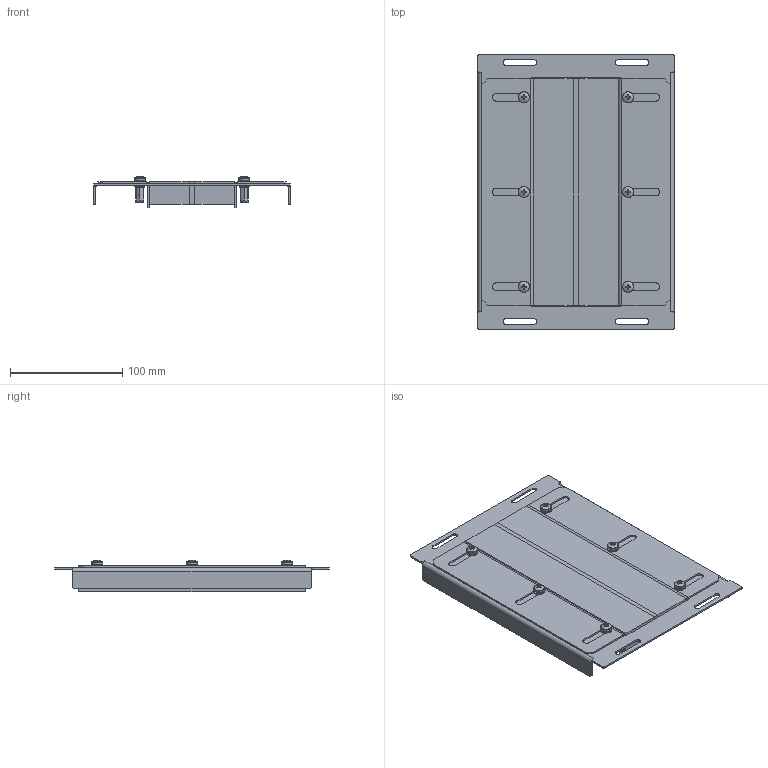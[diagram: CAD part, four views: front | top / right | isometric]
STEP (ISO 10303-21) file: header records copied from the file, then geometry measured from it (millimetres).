
FILE_DESCRIPTION(('STEP AP203'), '1');
FILE_NAME('3015 Ïàíåëü íà äíî ÑÁ', '', ('UNSPECIFIED'), ('UNSPECIFIED'), 'C3D Converter', 'C3D Toolkit', '');
FILE_SCHEMA(('CONFIG_CONTROL_DESIGN'));
Length unit declared in the file: millimetre
Products named in the file (8): 3015.40.Э; 3016.40; 2322.40; 2323.40
Assembly tree (28 placements, depth 3):
  3015.40.Э
    3016.40
    (unnamed)  x6
    (unnamed)  x6
    (unnamed)  x6
    (unnamed)  x6
    2322.40  x2
      2323.40
Bounding box: 175 x 245 x 28.12 mm (x, y, z)
Volume: 417034.6 mm3; surface area: 182041.5 mm2
Topology: 29 solids, 29 shells, 792 faces, 2002 edges, 1304 vertices
Faces by surface type: plane 390, cylinder 198, bspline 180, torus 12, sphere 6, cone 6
Full cylindrical faces by diameter (mm): 4.134 x6, 5 x6, 5.5 x6, 5.8 x6, 8.8 x6, 9.5 x6, 10 x6
Entity records: 12693 total; most frequent: CARTESIAN_POINT 5733, ORIENTED_EDGE 1228, DIRECTION 1224, EDGE_CURVE 614, AXIS2_PLACEMENT_3D 409, LINE 406, VECTOR 406, VERTEX_POINT 400
